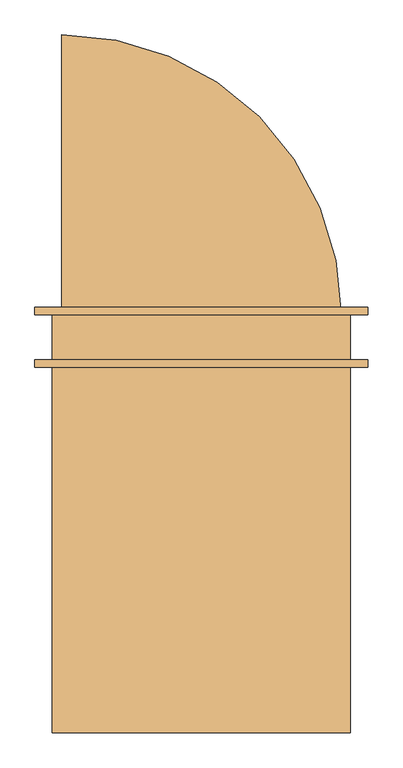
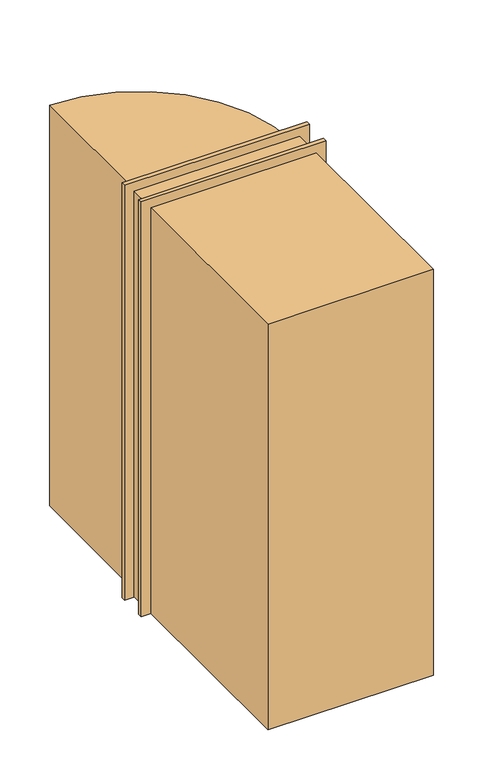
"""IFC4 building model written with IfcOpenShell, lengths in millimetres: door geometry, Дверь_Деревянная_Внутренняя_Однопольная_ГОСТ_475-2016 : 0810 x 2070(h)_Пр_с Порогом."""

from ifc_helpers import new_model, si_unit, point, frame, frame_2d, origin, origin_with_axes, place, context, project, spatial, polyline, circle_curve, trimmed, segment, composite_curve, outline, extrude, faceted_brep, source, transform, mapped, element, save
from ifc_brep_helpers import plane_surface, cylinder_surface, revolved_surface, advanced_brep


def door_db114602(model_context):
    return source(origin(), model_context, "Body", "SolidModel", [
        extrude(outline(composite_curve([segment(trimmed(circle_curve(frame_2d((-375.0, 56.825)), 750.0), [point((-375.0, 806.825))], [point((375.0, 56.825))], False, "CARTESIAN"), True, "CONTINUOUS"), segment(polyline([(375.0, 56.825), (-375.0, 56.825), (-375.0, 806.825)]), True, "CONTINUOUS")], self_intersect=False)), origin_with_axes(), (0.0, 0.0, 1.0), 2045.0),
        extrude(outline(polyline([(-400.0, -1063.175), (-400.0, -63.175), (400.0, -63.175), (400.0, -1063.175), (-400.0, -1063.175)])), origin_with_axes(), (0.0, 0.0, 1.0), 2070.0),
        advanced_brep(
        [(310.0, 15.825, 914.4), (320.0, 15.825, 914.4), (300.0, 15.825, 914.4), (289.5241324, -33.175, 914.4), (330.4758676, -33.175, 914.4), (310.0, -33.175, 914.4), (285.0, -31.3471319, 914.4), (335.0, -31.3471319, 914.4), (285.0, -27.8834537, 914.4), (335.0, -27.8834537, 914.4), (291.363764, -3.175, 914.4), (328.636236, -3.175, 914.4), (300.0, -3.175, 914.4), (320.0, -3.175, 914.4)],
        [
            (0, 1),
            (1, 2, circle_curve(frame((310.0, 15.825, 914.4), z_axis=(0.0, 1.0, 0.0), x_axis=(1.0, 0.0, 0.0)), 10.0)),
            (2, 0),
            (2, 1, circle_curve(frame((310.0, 15.825, 914.4), z_axis=(0.0, 1.0, 0.0), x_axis=(1.0, 0.0, 0.0)), 10.0)),
            (3, 4, circle_curve(frame((310.0, -33.175, 914.4), z_axis=(0.0, -1.0, 0.0), x_axis=(1.0, 0.0, 0.0)), 20.4758676)),
            (4, 5),
            (5, 3),
            (4, 3, circle_curve(frame((310.0, -33.175, 914.4), z_axis=(0.0, -1.0, 0.0), x_axis=(1.0, 0.0, 0.0)), 20.4758676)),
            (6, 7, circle_curve(frame((310.0, -31.3471319, 914.4), z_axis=(0.0, -1.0, 0.0), x_axis=(1.0, 0.0, 0.0)), 25.0)),
            (7, 4),
            (3, 6),
            (7, 6, circle_curve(frame((310.0, -31.3471319, 914.4), z_axis=(0.0, -1.0, 0.0), x_axis=(1.0, 0.0, 0.0)), 25.0)),
            (8, 9, circle_curve(frame((310.0, -27.8834537, 914.4), z_axis=(0.0, -1.0, 0.0), x_axis=(1.0, 0.0, 0.0)), 25.0)),
            (9, 7),
            (6, 8),
            (9, 8, circle_curve(frame((310.0, -27.8834537, 914.4), z_axis=(0.0, -1.0, 0.0), x_axis=(1.0, 0.0, 0.0)), 25.0)),
            (10, 11, circle_curve(frame((310.0, -3.175, 914.4), z_axis=(0.0, -1.0, 0.0), x_axis=(1.0, 0.0, 0.0)), 18.636236)),
            (11, 9),
            (8, 10),
            (11, 10, circle_curve(frame((310.0, -3.175, 914.4), z_axis=(0.0, -1.0, 0.0), x_axis=(1.0, 0.0, 0.0)), 18.636236)),
            (12, 13, circle_curve(frame((310.0, -3.175, 914.4), z_axis=(0.0, -1.0, 0.0), x_axis=(1.0, 0.0, 0.0)), 10.0)),
            (13, 11),
            (10, 12),
            (13, 12, circle_curve(frame((310.0, -3.175, 914.4), z_axis=(0.0, -1.0, 0.0), x_axis=(1.0, 0.0, 0.0)), 10.0)),
            (1, 13),
            (12, 2),
        ],
        [
            plane_surface(frame((310.0, 15.825, 914.4), z_axis=(0.0, 1.0, 0.0), x_axis=(1.0, 0.0, 0.0))),
            plane_surface(frame((310.0, -33.175, 914.4), z_axis=(0.0, -1.0, 0.0), x_axis=(1.0, 0.0, 0.0))),
            revolved_surface(polyline([(330.4758676, -33.175, 914.4), (335.0, -31.3471319, 914.4)]), (310.0, 15.825, 914.4), (0.0, 1.0, 0.0)),
            cylinder_surface(frame((310.0, 15.825, 914.4), z_axis=(0.0, 1.0, 0.0), x_axis=(1.0, 0.0, 0.0)), 25.0),
            revolved_surface(polyline([(335.0, -27.8834537, 914.4), (328.636236, -3.175, 914.4)]), (310.0, 15.825, 914.4), (0.0, 1.0, 0.0)),
            plane_surface(frame((310.0, -3.175, 914.4), z_axis=(0.0, 1.0, 0.0), x_axis=(1.0, 0.0, 0.0))),
            cylinder_surface(frame((310.0, 15.825, 914.4), z_axis=(0.0, 1.0, 0.0), x_axis=(1.0, 0.0, 0.0)), 10.0),
        ],
        [
            (0, [[1, 2, 3]]),
            (0, [[-3, 4, -1]]),
            (1, [[5, 6, 7]]),
            (1, [[8, -7, -6]]),
            (2, [[9, 10, -5, 11]]),
            (2, [[12, -11, -8, -10]]),
            (3, [[13, 14, -9, 15]]),
            (3, [[16, -15, -12, -14]]),
            (4, [[17, 18, -13, 19]]),
            (4, [[20, -19, -16, -18]]),
            (5, [[21, 22, -17, 23]]),
            (5, [[24, -23, -20, -22]]),
            (6, [[-2, 25, -21, 26]]),
            (6, [[-4, -26, -24, -25]]),
        ],
    ),
        extrude(outline(composite_curve([segment(trimmed(circle_curve(frame_2d((914.4, 310.0)), 30.0), [point((914.4, 340.0))], [point((914.4, 280.0))], False, "CARTESIAN"), True, "CONTINUOUS"), segment(trimmed(circle_curve(frame_2d((914.4, 310.0)), 30.0), [point((914.4, 280.0))], [point((914.4, 340.0))], False, "CARTESIAN"), True, "CONTINUOUS")], self_intersect=False)), frame((0.0, 15.825, 0.0), z_axis=(0.0, 1.0, 0.0), x_axis=(0.0, 0.0, 1.0)), (0.0, 0.0, 1.0), 6.0),
        advanced_brep(
        [(310.0, 62.825, 914.4), (300.0, 62.825, 914.4), (320.0, 62.825, 914.4), (289.5241324, 111.825, 914.4), (310.0, 111.825, 914.4), (330.4758676, 111.825, 914.4), (285.0, 109.9971319, 914.4), (335.0, 109.9971319, 914.4), (285.0, 106.5334537, 914.4), (335.0, 106.5334537, 914.4), (291.363764, 81.825, 914.4), (328.636236, 81.825, 914.4), (300.0, 81.825, 914.4), (320.0, 81.825, 914.4)],
        [
            (0, 1),
            (1, 2, circle_curve(frame((310.0, 62.825, 914.4), z_axis=(0.0, -1.0, 0.0), x_axis=(1.0, 0.0, 0.0)), 10.0)),
            (2, 0),
            (2, 1, circle_curve(frame((310.0, 62.825, 914.4), z_axis=(0.0, -1.0, 0.0), x_axis=(1.0, 0.0, 0.0)), 10.0)),
            (3, 4),
            (4, 5),
            (5, 3, circle_curve(frame((310.0, 111.825, 914.4), z_axis=(0.0, 1.0, 0.0), x_axis=(1.0, 0.0, 0.0)), 20.4758676)),
            (3, 5, circle_curve(frame((310.0, 111.825, 914.4), z_axis=(0.0, 1.0, 0.0), x_axis=(1.0, 0.0, 0.0)), 20.4758676)),
            (6, 3),
            (5, 7),
            (7, 6, circle_curve(frame((310.0, 109.9971319, 914.4), z_axis=(0.0, 1.0, 0.0), x_axis=(1.0, 0.0, 0.0)), 25.0)),
            (6, 7, circle_curve(frame((310.0, 109.9971319, 914.4), z_axis=(0.0, 1.0, 0.0), x_axis=(1.0, 0.0, 0.0)), 25.0)),
            (8, 6),
            (7, 9),
            (9, 8, circle_curve(frame((310.0, 106.5334537, 914.4), z_axis=(0.0, 1.0, 0.0), x_axis=(1.0, 0.0, 0.0)), 25.0)),
            (8, 9, circle_curve(frame((310.0, 106.5334537, 914.4), z_axis=(0.0, 1.0, 0.0), x_axis=(1.0, 0.0, 0.0)), 25.0)),
            (10, 8),
            (9, 11),
            (11, 10, circle_curve(frame((310.0, 81.825, 914.4), z_axis=(0.0, 1.0, 0.0), x_axis=(1.0, 0.0, 0.0)), 18.636236)),
            (10, 11, circle_curve(frame((310.0, 81.825, 914.4), z_axis=(0.0, 1.0, 0.0), x_axis=(1.0, 0.0, 0.0)), 18.636236)),
            (12, 10),
            (11, 13),
            (13, 12, circle_curve(frame((310.0, 81.825, 914.4), z_axis=(0.0, 1.0, 0.0), x_axis=(1.0, 0.0, 0.0)), 10.0)),
            (12, 13, circle_curve(frame((310.0, 81.825, 914.4), z_axis=(0.0, 1.0, 0.0), x_axis=(1.0, 0.0, 0.0)), 10.0)),
            (1, 12),
            (13, 2),
        ],
        [
            plane_surface(frame((310.0, 62.825, 914.4), z_axis=(0.0, -1.0, 0.0), x_axis=(1.0, 0.0, 0.0))),
            plane_surface(frame((310.0, 111.825, 914.4), z_axis=(0.0, 1.0, 0.0), x_axis=(1.0, 0.0, 0.0))),
            revolved_surface(polyline([(330.4758676, 111.825, 914.4), (335.0, 109.9971319, 914.4)]), (310.0, 62.825, 914.4), (0.0, -1.0, 0.0)),
            cylinder_surface(frame((310.0, 62.825, 914.4), z_axis=(0.0, -1.0, 0.0), x_axis=(1.0, 0.0, 0.0)), 25.0),
            revolved_surface(polyline([(335.0, 106.5334537, 914.4), (328.636236, 81.825, 914.4)]), (310.0, 62.825, 914.4), (0.0, -1.0, 0.0)),
            plane_surface(frame((310.0, 81.825, 914.4), z_axis=(0.0, -1.0, 0.0), x_axis=(1.0, 0.0, 0.0))),
            cylinder_surface(frame((310.0, 62.825, 914.4), z_axis=(0.0, -1.0, 0.0), x_axis=(1.0, 0.0, 0.0)), 10.0),
        ],
        [
            (0, [[1, 2, 3]]),
            (0, [[-3, 4, -1]]),
            (1, [[5, 6, 7]]),
            (1, [[-6, -5, 8]]),
            (2, [[9, -7, 10, 11]]),
            (2, [[-10, -8, -9, 12]]),
            (3, [[13, -11, 14, 15]]),
            (3, [[-14, -12, -13, 16]]),
            (4, [[17, -15, 18, 19]]),
            (4, [[-18, -16, -17, 20]]),
            (5, [[21, -19, 22, 23]]),
            (5, [[-22, -20, -21, 24]]),
            (6, [[25, -23, 26, -2]]),
            (6, [[-26, -24, -25, -4]]),
        ],
    ),
        extrude(outline(composite_curve([segment(trimmed(circle_curve(frame_2d((914.4, 310.0)), 30.0), [point((914.4, 340.0))], [point((914.4, 280.0))], False, "CARTESIAN"), True, "CONTINUOUS"), segment(trimmed(circle_curve(frame_2d((914.4, 310.0)), 30.0), [point((914.4, 280.0))], [point((914.4, 340.0))], False, "CARTESIAN"), True, "CONTINUOUS")], self_intersect=False)), frame((0.0, 56.825, 0.0), z_axis=(0.0, 1.0, 0.0), x_axis=(0.0, 0.0, 1.0)), (0.0, 0.0, 1.0), 6.0),
        extrude(outline(polyline([(255.0, 33.4916667), (-255.0, 33.4916667), (-255.0, 45.1583333), (255.0, 45.1583333), (255.0, 33.4916667)])), frame((0.0, 0.0, 230.0), z_axis=(0.0, 0.0, 1.0), x_axis=(1.0, 0.0, 0.0)), (0.0, 0.0, 1.0), 1695.0),
        extrude(outline(polyline([(2045.0, -375.0), (25.0, -375.0), (25.0, 375.0), (2045.0, 375.0), (2045.0, -375.0)]), holes=[polyline([(1925.0, -255.0), (1925.0, 255.0), (230.0, 255.0), (230.0, -255.0), (1925.0, -255.0)])]), frame((0.0, 21.825, 0.0), z_axis=(0.0, 1.0, 0.0), x_axis=(0.0, 0.0, 1.0)), (0.0, 0.0, 1.0), 35.0),
        faceted_brep([(400.0, 56.825, 0.0), (400.0, -63.175, 0.0), (375.0, -63.175, 0.0), (375.0, -13.1, 0.0), (362.3, -13.1, 0.0), (362.3, 21.825, 0.0), (375.0, 21.825, 0.0), (375.0, 56.825, 0.0), (400.0, 56.825, 2070.0), (400.0, -63.175, 2070.0), (-400.0, -63.175, 2070.0), (-400.0, -63.175, 0.0), (-375.0, -63.175, 0.0), (-375.0, -63.175, 2045.0), (375.0, -63.175, 2045.0), (375.0, -13.1, 2045.0), (-375.0, -13.1, 2045.0), (-375.0, -13.1, 0.0), (-362.3, -13.1, 0.0), (-362.3, -13.1, 2032.3), (362.3, -13.1, 2032.3), (362.3, 21.825, 2032.3), (-362.3, 21.825, 2032.3), (-362.3, 21.825, 0.0), (-375.0, 21.825, 0.0), (-375.0, 21.825, 2045.0), (375.0, 21.825, 2045.0), (375.0, 56.825, 2045.0), (-375.0, 56.825, 2045.0), (-375.0, 56.825, 0.0), (-400.0, 56.825, 0.0), (-400.0, 56.825, 2070.0)], [[[0, 1, 2, 3, 4, 5, 6, 7]], [[1, 0, 8, 9]], [[2, 1, 9, 10, 11, 12, 13, 14]], [[3, 2, 14, 15]], [[4, 3, 15, 16, 17, 18, 19, 20]], [[5, 4, 20, 21]], [[6, 5, 21, 22, 23, 24, 25, 26]], [[7, 6, 26, 27]], [[0, 7, 27, 28, 29, 30, 31, 8]], [[9, 8, 31, 10]], [[15, 14, 13, 16]], [[21, 20, 19, 22]], [[27, 26, 25, 28]], [[30, 29, 24, 23, 18, 17, 12, 11]], [[10, 31, 30, 11]], [[16, 13, 12, 17]], [[22, 19, 18, 23]], [[28, 25, 24, 29]]]),
        extrude(outline(polyline([(0.0, 381.35), (0.0, 446.35), (2116.35, 446.35), (2116.35, -446.35), (0.0, -446.35), (0.0, -381.35), (2051.35, -381.35), (2051.35, 381.35), (0.0, 381.35)])), frame((0.0, -83.175, 0.0), z_axis=(0.0, 1.0, 0.0), x_axis=(0.0, 0.0, 1.0)), (0.0, 0.0, 1.0), 20.0),
        extrude(outline(polyline([(0.0, 381.35), (0.0, 446.35), (2116.35, 446.35), (2116.35, -446.35), (0.0, -446.35), (0.0, -381.35), (2051.35, -381.35), (2051.35, 381.35), (0.0, 381.35)])), frame((0.0, 56.825, 0.0), z_axis=(0.0, 1.0, 0.0), x_axis=(0.0, 0.0, 1.0)), (0.0, 0.0, 1.0), 20.0),
        extrude(outline(polyline([(375.0, 56.825), (375.0, 21.825), (-375.0, 21.825), (-375.0, 56.825), (375.0, 56.825)])), origin_with_axes(), (0.0, 0.0, 1.0), 25.0),
    ])


if __name__ == "__main__":
    model = new_model("IFC4")
    model_context = context("Model", 3, world=origin())
    ifc_project = project(units=[si_unit("LENGTHUNIT", "METRE", prefix="MILLI")], contexts=[model_context])
    site = spatial("IfcSite", under=ifc_project)
    building = spatial("IfcBuilding", under=site)
    placement = place(None, origin())
    door_shape = door_db114602(model_context)
    element("IfcDoor", 1, ObjectType="Дверь_Деревянная_Внутренняя_Однопольная_ГОСТ_475-2016 : 0810 x 2070(h)_Пр_с Порогом", at=placement, inside=building, context=model_context, shape_type="MappedRepresentation", body=[
        mapped(door_shape, transform((0.0, 0.0, 0.0), x_axis=(1.0, 0.0, 0.0), y_axis=(0.0, 1.0, 0.0), z_axis=(0.0, 0.0, 1.0))),
    ])
    save(model, "model.ifc")
